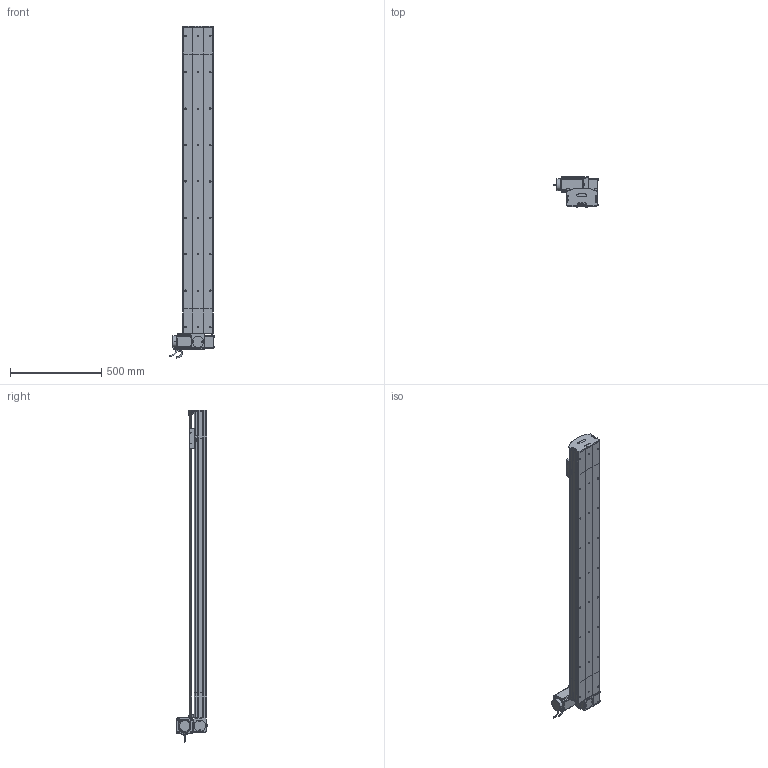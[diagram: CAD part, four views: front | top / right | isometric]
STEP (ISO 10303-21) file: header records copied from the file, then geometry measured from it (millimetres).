
FILE_DESCRIPTION (( 'STEP AP214' ), '1' );
FILE_NAME ('D17 TBN LT S1400.STEP', '2010-06-30T10:53:47', ( 'Christophe Gaillard' ), ( 'SGA' ), 'SwSTEP 2.0', 'SolidWorks 2010', '' );
FILE_SCHEMA (( 'AUTOMOTIVE_DESIGN' ));
Length unit declared in the file: millimetre
Products named in the file (40): chariot D17 TBN; Chariot D17 TBN; guide D17; D17 TBN LT S1400; Conecteur_Default; Couroie+ rail D17 Course 1400 ; corp D17B 1400_Default; couvercle D17B course L1400_Default; Head LT D17B_Default; vis M5 L8 90°_Default; Tail D17B_Default; corpl tail D17B_Default; course 1400 D17B_Default; vis M5 L25_Default; vis M5 L12_Default; tete d''axe poulie D17B; Rail D17B; plaque de  bout tail D17B_Default; Couroie tail D17B_Default; couvercle D17B_Default; poulie tail_Default; corpl head D17 _Default; plaque de  bout head D17B LT_Default; Arbre+rail head D17B; cache D17_Default; vis M5 L5_Default; Conecteur2_Default; vis M5 L16_Default; codeur 90BLDC125-640; poulie head_Default; cache arbre D17_Default; couroie head D17_Default; Vis M5 L16-2_Default; corps 90BLDC125A-640; vis M5 L70_Default; couvercle D17B head_Default; Renvoi LT_Default; Moteur motionking 90BLDC125A-640; avant 90BLDC125A-640; Plaque racord D17_Default
Assembly tree (66 placements, depth 4):
  D17 TBN LT S1400
    Tail D17B_Default
      plaque de  bout tail D17B_Default
      vis M5 L12_Default  x4
      poulie tail_Default
      couvercle D17B_Default
      Rail D17B
      Couroie tail D17B_Default
      corpl tail D17B_Default
      tete d''axe poulie D17B
      vis M5 L8 90°_Default  x2
      vis M5 L25_Default  x2
    course 1400 D17B_Default
      couvercle D17B course L1400_Default
      Couroie+ rail D17 Course 1400 
      corp D17B 1400_Default
    chariot D17 TBN
      guide D17  x2
      Chariot D17 TBN
    Head LT D17B_Default
      corpl head D17 _Default
      vis M5 L70_Default  x4
      vis M5 L12_Default  x8
      Moteur motionking 90BLDC125A-640
        Conecteur_Default
        avant 90BLDC125A-640
        codeur 90BLDC125-640
        corps 90BLDC125A-640
        Conecteur2_Default
      Plaque racord D17_Default
      Vis M5 L16-2_Default  x4
      poulie head_Default
      vis M5 L25_Default  x2
      vis M5 L16_Default  x2
      plaque de  bout head D17B LT_Default
      cache arbre D17_Default
      vis M5 L5_Default  x4
      couroie head D17_Default
      Arbre+rail head D17B
      cache D17_Default  x2
      Renvoi LT_Default
      couvercle D17B head_Default
Bounding box: 245.2 x 166.15 x 1823.95 mm (x, y, z)
Volume: 11072998.2 mm3; surface area: 3147274.8 mm2
Topology: 89 solids, 89 shells, 2555 faces, 6473 edges, 4174 vertices
Faces by surface type: plane 1533, cylinder 725, bspline 136, cone 80, torus 77, sphere 4
Entity records: 82379 total; most frequent: CARTESIAN_POINT 24671, ORIENTED_EDGE 10118, DIRECTION 9572, EDGE_CURVE 5059, VECTOR 3394, LINE 3394, VERTEX_POINT 3318, AXIS2_PLACEMENT_3D 3089
